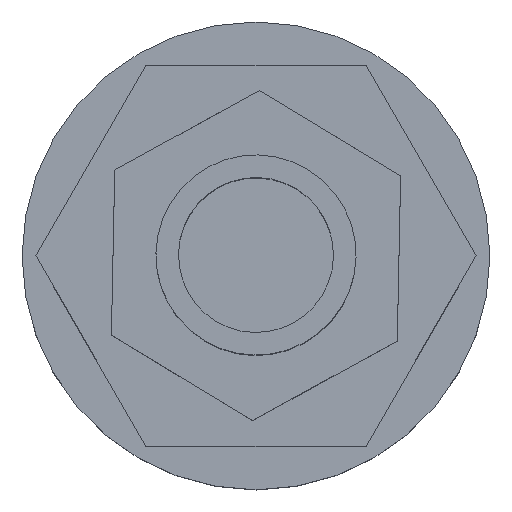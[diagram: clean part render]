
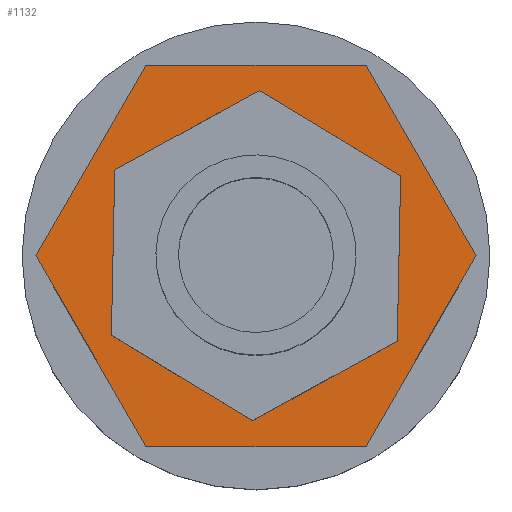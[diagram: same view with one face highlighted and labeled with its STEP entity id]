
A CAD part, top view. The second image highlights one B-rep face of the part: STEP entity #1132.
In plain terms, the highlighted planar face has unit normal (0, 0, 1).
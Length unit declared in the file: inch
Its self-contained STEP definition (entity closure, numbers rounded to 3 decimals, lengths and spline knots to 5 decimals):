
#9 = EDGE_CURVE ( 'NONE', #404, #352, #417, .T. ) ;
#30 = DIRECTION ( 'NONE',  ( -1., 0., 0. ) ) ;
#34 = DIRECTION ( 'NONE',  ( 0., 0., -1. ) ) ;
#35 = CARTESIAN_POINT ( 'NONE',  ( -2.62787, -1.99308, 0.673 ) ) ;
#46 = PLANE ( 'NONE',  #1303 ) ;
#96 = CARTESIAN_POINT ( 'NONE',  ( -3.95216, -0.83494, 0.673 ) ) ;
#116 = CARTESIAN_POINT ( 'NONE',  ( -2.05052, -0.99308, 0.673 ) ) ;
#126 = CARTESIAN_POINT ( 'NONE',  ( -3.47101, -1.70882, 0.673 ) ) ;
#133 = CARTESIAN_POINT ( 'NONE',  ( -3.78257, -1.99308, 0.673 ) ) ;
#137 = DIRECTION ( 'NONE',  ( 0., 0., 1. ) ) ;
#152 = CARTESIAN_POINT ( 'NONE',  ( -3.95797, -1.12077, 0.673 ) ) ;
#161 = DIRECTION ( 'NONE',  ( -1., 0., 0. ) ) ;
#184 = CARTESIAN_POINT ( 'NONE',  ( -2.62787, -1.99308, 0.673 ) ) ;
#187 = CARTESIAN_POINT ( 'NONE',  ( -3.44174, -0.26714, 0.673 ) ) ;
#215 = CARTESIAN_POINT ( 'NONE',  ( -3.78257, 0.00692, 0.673 ) ) ;
#225 = CARTESIAN_POINT ( 'NONE',  ( -2.45247, -0.86539, 0.673 ) ) ;
#234 = CARTESIAN_POINT ( 'NONE',  ( -3.20522, -0.99308, 0.673 ) ) ;
#246 = CARTESIAN_POINT ( 'NONE',  ( -2.6948, -0.42527, 0.673 ) ) ;
#255 = DIRECTION ( 'NONE',  ( 0., 0., 1. ) ) ;
#256 = CARTESIAN_POINT ( 'NONE',  ( -3.20522, -0.99308, 0.673 ) ) ;
#257 = CARTESIAN_POINT ( 'NONE',  ( -2.93943, -0.27734, 0.673 ) ) ;
#259 = CARTESIAN_POINT ( 'NONE',  ( -2.62787, 0.00692, 0.673 ) ) ;
#270 = CARTESIAN_POINT ( 'NONE',  ( -2.45828, -1.15121, 0.673 ) ) ;
#271 = CARTESIAN_POINT ( 'NONE',  ( -3.71564, -1.56088, 0.673 ) ) ;
#281 = CARTESIAN_POINT ( 'NONE',  ( -2.9687, -1.71902, 0.673 ) ) ;
#285 = DIRECTION ( 'NONE',  ( -1., 0., 0. ) ) ;
#302 = DIRECTION ( 'NONE',  ( 0.02, 1., 0. ) ) ;
#314 = CARTESIAN_POINT ( 'NONE',  ( -3.69217, -0.40502, 0.673 ) ) ;
#322 = CARTESIAN_POINT ( 'NONE',  ( -2.46416, -1.44123, 0.673 ) ) ;
#326 = CARTESIAN_POINT ( 'NONE',  ( -2.71827, -1.58113, 0.673 ) ) ;
#329 = CARTESIAN_POINT ( 'NONE',  ( -4.35992, -0.99308, 0.673 ) ) ;
#338 = VERTEX_POINT ( 'NONE', #329 ) ;
#352 = VERTEX_POINT ( 'NONE', #225 ) ;
#354 = VERTEX_POINT ( 'NONE', #215 ) ;
#370 = ORIENTED_EDGE ( 'NONE', *, *, #9, .F. ) ;
#375 = VERTEX_POINT ( 'NONE', #314 ) ;
#378 = VERTEX_POINT ( 'NONE', #281 ) ;
#379 = ORIENTED_EDGE ( 'NONE', *, *, #1187, .F. ) ;
#388 = ORIENTED_EDGE ( 'NONE', *, *, #1185, .T. ) ;
#395 = ORIENTED_EDGE ( 'NONE', *, *, #1182, .T. ) ;
#396 = VERTEX_POINT ( 'NONE', #96 ) ;
#397 = ORIENTED_EDGE ( 'NONE', *, *, #1164, .T. ) ;
#399 = VERTEX_POINT ( 'NONE', #246 ) ;
#400 = VERTEX_POINT ( 'NONE', #257 ) ;
#404 = VERTEX_POINT ( 'NONE', #270 ) ;
#412 = CIRCLE ( 'NONE', #1319, 0.7635 ) ;
#417 = LINE ( 'NONE', #322, #686 ) ;
#428 = CIRCLE ( 'NONE', #1316, 0.7635 ) ;
#430 = ORIENTED_EDGE ( 'NONE', *, *, #1183, .T. ) ;
#448 = VERTEX_POINT ( 'NONE', #133 ) ;
#457 = VERTEX_POINT ( 'NONE', #126 ) ;
#466 = VERTEX_POINT ( 'NONE', #259 ) ;
#493 = VERTEX_POINT ( 'NONE', #271 ) ;
#527 = EDGE_LOOP ( 'NONE', ( #397, #388, #600, #589, #430, #395 ) ) ;
#532 = ORIENTED_EDGE ( 'NONE', *, *, #1311, .F. ) ;
#555 = ORIENTED_EDGE ( 'NONE', *, *, #1156, .F. ) ;
#578 = ORIENTED_EDGE ( 'NONE', *, *, #1310, .F. ) ;
#589 = ORIENTED_EDGE ( 'NONE', *, *, #1162, .T. ) ;
#590 = ORIENTED_EDGE ( 'NONE', *, *, #1178, .F. ) ;
#597 = ORIENTED_EDGE ( 'NONE', *, *, #1170, .F. ) ;
#599 = VERTEX_POINT ( 'NONE', #326 ) ;
#600 = ORIENTED_EDGE ( 'NONE', *, *, #1161, .T. ) ;
#625 = VERTEX_POINT ( 'NONE', #116 ) ;
#636 = EDGE_LOOP ( 'NONE', ( #370, #661, #532, #658, #662, #379, #597, #555, #590, #678, #578, #668 ) ) ;
#657 = VERTEX_POINT ( 'NONE', #184 ) ;
#658 = ORIENTED_EDGE ( 'NONE', *, *, #1099, .F. ) ;
#661 = ORIENTED_EDGE ( 'NONE', *, *, #1188, .F. ) ;
#662 = ORIENTED_EDGE ( 'NONE', *, *, #1312, .F. ) ;
#668 = ORIENTED_EDGE ( 'NONE', *, *, #1196, .F. ) ;
#672 = VERTEX_POINT ( 'NONE', #187 ) ;
#676 = VERTEX_POINT ( 'NONE', #152 ) ;
#678 = ORIENTED_EDGE ( 'NONE', *, *, #689, .F. ) ;
#686 = VECTOR ( 'NONE', #302, 39.37008 ) ;
#689 = EDGE_CURVE ( 'NONE', #400, #672, #428, .T. ) ;
#694 = LINE ( 'NONE', #877, #696 ) ;
#695 = LINE ( 'NONE', #886, #703 ) ;
#696 = VECTOR ( 'NONE', #876, 39.37008 ) ;
#700 = VECTOR ( 'NONE', #874, 39.37008 ) ;
#702 = LINE ( 'NONE', #875, #700 ) ;
#703 = VECTOR ( 'NONE', #879, 39.37008 ) ;
#707 = DIRECTION ( 'NONE',  ( -1., 0., 0. ) ) ;
#708 = DIRECTION ( 'NONE',  ( 0., 0., 1. ) ) ;
#709 = CARTESIAN_POINT ( 'NONE',  ( -3.20522, -0.99308, 0.673 ) ) ;
#712 = DIRECTION ( 'NONE',  ( -1., 0., 0. ) ) ;
#713 = DIRECTION ( 'NONE',  ( 0., 0., 1. ) ) ;
#714 = CARTESIAN_POINT ( 'NONE',  ( -3.20522, -0.99308, 0.673 ) ) ;
#717 = DIRECTION ( 'NONE',  ( -0.5, 0.866, 0. ) ) ;
#719 = CARTESIAN_POINT ( 'NONE',  ( -2.05052, -0.99308, 0.673 ) ) ;
#723 = DIRECTION ( 'NONE',  ( 0.5, -0.866, 0. ) ) ;
#724 = CARTESIAN_POINT ( 'NONE',  ( -4.35992, -0.99308, 0.673 ) ) ;
#738 = CARTESIAN_POINT ( 'NONE',  ( -3.78257, -1.99308, 0.673 ) ) ;
#742 = DIRECTION ( 'NONE',  ( 1., 0., 0. ) ) ;
#753 = DIRECTION ( 'NONE',  ( -0.876, -0.482, 0. ) ) ;
#754 = CARTESIAN_POINT ( 'NONE',  ( -3.18764, -0.12723, 0.673 ) ) ;
#773 = DIRECTION ( 'NONE',  ( -0.02, -1., 0. ) ) ;
#775 = CARTESIAN_POINT ( 'NONE',  ( -3.94628, -0.54493, 0.673 ) ) ;
#793 = DIRECTION ( 'NONE',  ( 0.5, 0.866, 0. ) ) ;
#794 = CARTESIAN_POINT ( 'NONE',  ( -2.62787, -1.99308, 0.673 ) ) ;
#801 = DIRECTION ( 'NONE',  ( -0.5, -0.866, 0. ) ) ;
#802 = DIRECTION ( 'NONE',  ( -1., 0., 0. ) ) ;
#804 = CARTESIAN_POINT ( 'NONE',  ( -2.62787, 0.00692, 0.673 ) ) ;
#817 = CARTESIAN_POINT ( 'NONE',  ( -3.78257, 0.00692, 0.673 ) ) ;
#818 = DIRECTION ( 'NONE',  ( -1., 0., 0. ) ) ;
#819 = DIRECTION ( 'NONE',  ( 0., 0., 1. ) ) ;
#822 = CARTESIAN_POINT ( 'NONE',  ( -3.20522, -0.99308, 0.673 ) ) ;
#841 = DIRECTION ( 'NONE',  ( 0., 0., 1. ) ) ;
#842 = CARTESIAN_POINT ( 'NONE',  ( -3.20522, -0.99308, 0.673 ) ) ;
#869 = DIRECTION ( 'NONE',  ( -1., 0., 0. ) ) ;
#874 = DIRECTION ( 'NONE',  ( 0.856, -0.517, 0. ) ) ;
#875 = CARTESIAN_POINT ( 'NONE',  ( -3.96386, -1.41078, 0.673 ) ) ;
#876 = DIRECTION ( 'NONE',  ( 0.876, 0.482, 0. ) ) ;
#877 = CARTESIAN_POINT ( 'NONE',  ( -3.2228, -1.85893, 0.673 ) ) ;
#879 = DIRECTION ( 'NONE',  ( -0.856, 0.517, 0. ) ) ;
#886 = CARTESIAN_POINT ( 'NONE',  ( -2.44659, -0.57538, 0.673 ) ) ;
#958 = FACE_OUTER_BOUND ( 'NONE', #527, .T. ) ;
#976 = FACE_BOUND ( 'NONE', #636, .T. ) ;
#1001 = VECTOR ( 'NONE', #742, 39.37008 ) ;
#1003 = LINE ( 'NONE', #738, #1001 ) ;
#1004 = LINE ( 'NONE', #724, #1005 ) ;
#1005 = VECTOR ( 'NONE', #723, 39.37008 ) ;
#1006 = LINE ( 'NONE', #719, #1033 ) ;
#1009 = CIRCLE ( 'NONE', #1238, 0.7635 ) ;
#1016 = VECTOR ( 'NONE', #753, 39.37008 ) ;
#1026 = LINE ( 'NONE', #754, #1016 ) ;
#1030 = CIRCLE ( 'NONE', #1235, 0.7635 ) ;
#1032 = CIRCLE ( 'NONE', #1234, 0.7635 ) ;
#1033 = VECTOR ( 'NONE', #717, 39.37008 ) ;
#1041 = VECTOR ( 'NONE', #773, 39.37008 ) ;
#1043 = VECTOR ( 'NONE', #802, 39.37008 ) ;
#1056 = LINE ( 'NONE', #794, #1062 ) ;
#1061 = LINE ( 'NONE', #775, #1041 ) ;
#1062 = VECTOR ( 'NONE', #793, 39.37008 ) ;
#1063 = LINE ( 'NONE', #817, #1070 ) ;
#1068 = CIRCLE ( 'NONE', #1229, 0.7635 ) ;
#1070 = VECTOR ( 'NONE', #801, 39.37008 ) ;
#1087 = LINE ( 'NONE', #804, #1043 ) ;
#1099 = EDGE_CURVE ( 'NONE', #457, #378, #412, .T. ) ;
#1132 = ADVANCED_FACE ( 'NONE', ( #976, #958 ), #46, .F. ) ;
#1156 = EDGE_CURVE ( 'NONE', #375, #396, #1068, .T. ) ;
#1161 = EDGE_CURVE ( 'NONE', #466, #354, #1087, .T. ) ;
#1162 = EDGE_CURVE ( 'NONE', #354, #338, #1063, .T. ) ;
#1164 = EDGE_CURVE ( 'NONE', #657, #625, #1056, .T. ) ;
#1170 = EDGE_CURVE ( 'NONE', #396, #676, #1061, .T. ) ;
#1178 = EDGE_CURVE ( 'NONE', #672, #375, #1026, .T. ) ;
#1182 = EDGE_CURVE ( 'NONE', #448, #657, #1003, .T. ) ;
#1183 = EDGE_CURVE ( 'NONE', #338, #448, #1004, .T. ) ;
#1185 = EDGE_CURVE ( 'NONE', #625, #466, #1006, .T. ) ;
#1187 = EDGE_CURVE ( 'NONE', #676, #493, #1032, .T. ) ;
#1188 = EDGE_CURVE ( 'NONE', #599, #404, #1030, .T. ) ;
#1196 = EDGE_CURVE ( 'NONE', #352, #399, #1009, .T. ) ;
#1229 = AXIS2_PLACEMENT_3D ( 'NONE', #822, #819, #818 ) ;
#1234 = AXIS2_PLACEMENT_3D ( 'NONE', #714, #713, #712 ) ;
#1235 = AXIS2_PLACEMENT_3D ( 'NONE', #709, #708, #707 ) ;
#1238 = AXIS2_PLACEMENT_3D ( 'NONE', #842, #841, #869 ) ;
#1303 = AXIS2_PLACEMENT_3D ( 'NONE', #35, #34, #30 ) ;
#1310 = EDGE_CURVE ( 'NONE', #399, #400, #695, .T. ) ;
#1311 = EDGE_CURVE ( 'NONE', #378, #599, #694, .T. ) ;
#1312 = EDGE_CURVE ( 'NONE', #493, #457, #702, .T. ) ;
#1316 = AXIS2_PLACEMENT_3D ( 'NONE', #234, #137, #161 ) ;
#1319 = AXIS2_PLACEMENT_3D ( 'NONE', #256, #255, #285 ) ;
